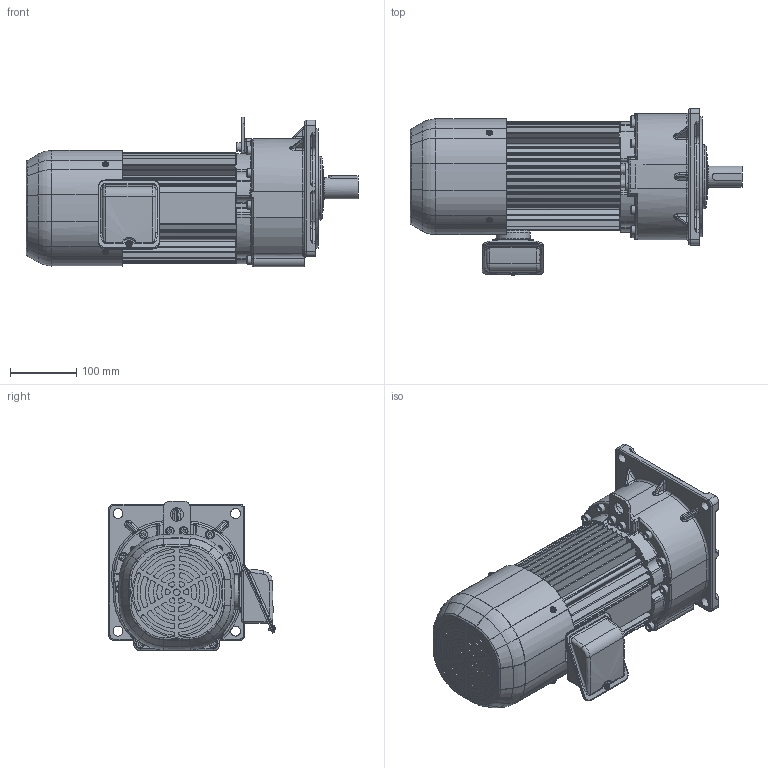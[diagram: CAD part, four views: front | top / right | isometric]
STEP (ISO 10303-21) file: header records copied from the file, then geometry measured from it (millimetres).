
FILE_DESCRIPTION( ( 'Unknown' ), '1' );
FILE_NAME( 'X:/gear/gm/3D-WEB/IE3/SP/ﾊﾟｰﾂ/完成品/spfb_15_3-30.stp', 'Unknown', ( 'Unknown' ), ( 'Unknown' ), 'PSStep 14.0', 'Unknown', ' ' );
FILE_SCHEMA( ( 'AUTOMOTIVE_DESIGN { 1 0 10303 214 1 1 1 1 }' ) );
Length unit declared in the file: millimetre
Products named in the file (7): PF08076_Gﾊﾟｯｷﾝ(F32)
Bounding box: 499.5 x 250.85 x 225 mm (x, y, z)
Volume: 7238582.1 mm3; surface area: 884818.1 mm2
Topology: 7 solids, 39 shells, 1984 faces, 4893 edges, 3036 vertices
Faces by surface type: cylinder 818, plane 689, torus 231, bspline 134, cone 82, sphere 30
Full cylindrical faces by diameter (mm): 3.8 x6, 4.2 x8, 4.8 x1, 5 x4, 5.5 x4, 5.6 x1, 5.8 x4, 6 x12, 6.8 x11, 7 x7, 8 x16, 8.2 x1, 8.5 x2, 9 x8, 10 x16, 13 x10, 15 x4, 20 x1, 23 x1, 25 x3, 28.6 x1, 32 x1, 34 x1, 34.5 x1, 35 x1, 46 x1, 47 x2, 48 x2, 50 x1, 51.2 x1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
Entity records: 90265 total; most frequent: CARTESIAN_POINT 28163, DIRECTION 10389, ORIENTED_EDGE 9004, EDGE_CURVE 4502, AXIS2_PLACEMENT_3D 4228, VERTEX_POINT 2942, EDGE_LOOP 2345, CIRCLE 2329
